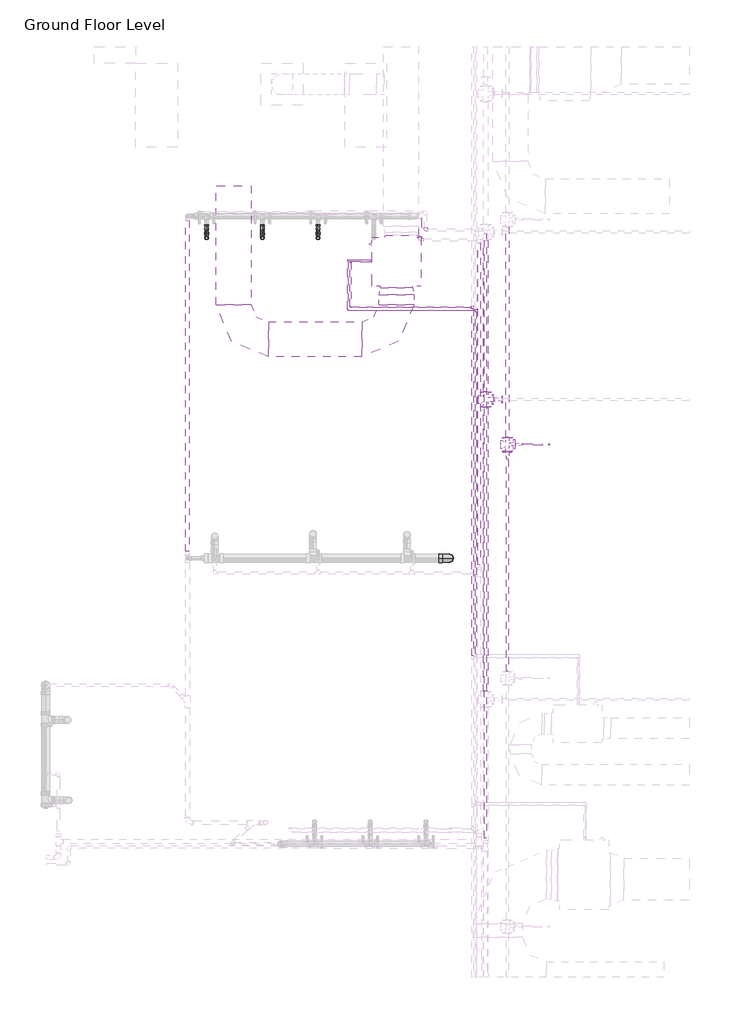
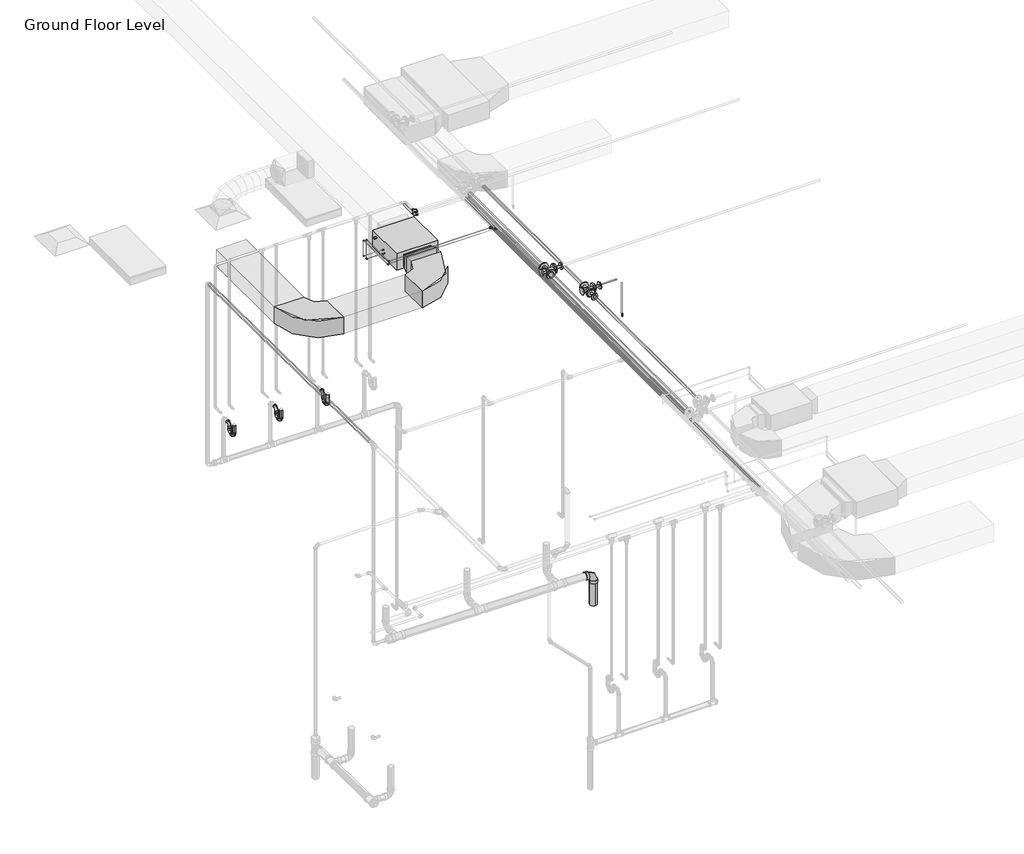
# One storey, part 21 of 74: 30 pipe segments, 27 pipe fittings, 3 duct fittings, 3 duct segments, 1 fire suppression terminal, 1 proxy.
"""IFC4 building model written with IfcOpenShell, lengths in millimetres."""

from ifc_helpers import new_model, si_unit, point, frame, frame_2d, origin, place, context, project, spatial, polyline, circle_curve, trimmed, segment, composite_curve, outline, extrude, transform, mapped, element, save
from components import fcu_daikin_iu_bad131e0, m_rectangular_elbow_radius_1_w_abe20169, m_rectangular_transition_angle_45_degree_f7c2916c, m_sprinkler_pendent_15_mm_pendent_06fcbd8e, m_bend_pvc_sch_40_dwv_standard_aa7efa4c, m_bend_pvc_sch_40_dwv_standard_1e7bdcc1, m_bend_pvc_sch_40_dwv_standard_776e50c4, m_elbow_generic_standard_a088f956, m_elbow_generic_standard_2a704253, m_reducer_flanged_cs_class_150_standard_b6b67c23, m_reducer_flanged_cs_class_150_standard_cc2a7c1d, m_reducer_flanged_cs_class_150_standard_a7631c35, m_tee_generic_standard_5b2ed4d4, m_tee_generic_standard_5078887e, m_tee_round_base_flanged_cs_class_150_standard_dd767e04, m_tee_round_base_flanged_cs_class_150_standard_9c9133d0, m_transition_generic_standard_bdcfe2c1, m_transition_generic_standard_44e35838, standard_517a5a8d

model = new_model("IFC4")

# Units and contexts
model_context = context("Model", 3, world=origin())
ifc_project = project(units=[si_unit("LENGTHUNIT", "METRE", prefix="MILLI")], contexts=[model_context])

# Site, building, storey
site = spatial("IfcSite", under=ifc_project)
building = spatial("IfcBuilding", under=site)
storey = spatial("IfcBuildingStorey", under=building, Name="Ground Floor Level", Elevation=900.0)

# Proxy
placement = place(None, origin())
fcu_daikin_iu_shape = fcu_daikin_iu_bad131e0(model_context)
element("IfcBuildingElementProxy", 1, Name="FCU-DAIKIN IU : 4.5kW, 230V/50Hz/1Ph", ObjectType="FCU-DAIKIN IU : 4.5kW, 230V/50Hz/1Ph", at=placement, inside=storey, context=model_context, shape_type="MappedRepresentation", body=[
    mapped(fcu_daikin_iu_shape, transform((4405.6581832, -24507.2627051, 3934.1054453), x_axis=(-1.0, 0.0, 0.0), y_axis=(0.0, -1.0, 0.0), z_axis=(0.0, 0.0, 1.0))),
])

# Duct fittings
m_rectangular_elbow_radius_1_w_shape = m_rectangular_elbow_radius_1_w_abe20169(model_context)
element("IfcDuctFitting", 2, ObjectType="M_Rectangular Elbow - Radius : 1 W", at=placement, inside=storey, context=model_context, shape_type="MappedRepresentation", body=[
    mapped(m_rectangular_elbow_radius_1_w_shape, transform((4405.6581832, -25622.6440715, 4075.3054453), x_axis=(1.0, 0.0, 0.0), y_axis=(0.0, 1.0, 0.0), z_axis=(0.0, 0.0, 1.0))),
])
element("IfcDuctFitting", 3, ObjectType="M_Rectangular Elbow - Radius : 1 W", at=placement, inside=storey, context=model_context, shape_type="MappedRepresentation", body=[
    mapped(m_rectangular_elbow_radius_1_w_shape, transform((2065.6581888, -25622.6440715, 4075.2875), x_axis=(0.0, -1.0, 0.0), y_axis=(1.0, 0.0, 0.0), z_axis=(0.0, 0.0, 1.0))),
])
m_rectangular_transition_angle_45_degree_shape = m_rectangular_transition_angle_45_degree_f7c2916c(model_context)
element("IfcDuctFitting", 4, ObjectType="M_Rectangular Transition - Angle : 45 Degree", at=placement, inside=storey, context=model_context, shape_type="MappedRepresentation", body=[
    mapped(m_rectangular_transition_angle_45_degree_shape, transform((4405.6581832, -24882.6627051, 4075.3054453), x_axis=(0.0, -1.0, 0.0), y_axis=(1.0, 0.0, 0.0), z_axis=(0.0, 0.0, 1.0))),
])

# Duct segments
element("IfcDuctSegment", 5, ObjectType="Radius Elbows / Taps", at=placement, inside=storey, context=model_context, shape_type="SweptSolid", body=[
    extrude(outline(polyline([(4155.6581832, -24986.1117562), (4655.6581832, -24986.1117562), (4655.6581832, -25122.6440715), (4155.6581832, -25122.6440715), (4155.6581832, -24986.1117562)])), frame((0.0, 0.0, 3925.3054453), z_axis=(0.0, 0.0, 1.0), x_axis=(1.0, 0.0, 0.0)), (0.0, 0.0, 1.0), 300.0),
])
element("IfcDuctSegment", 6, ObjectType="Radius Elbows / Taps", at=placement, inside=storey, context=model_context, shape_type="SweptSolid", body=[
    extrude(outline(polyline([(0.0, -500.0), (0.0, 0.0), (1339.9999945, 0.0), (1339.9999945, -500.0), (0.0, -500.0)])), frame((3905.660192, -25872.6440715, 3925.3054453), z_axis=(-1.3392036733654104e-05, 0.0, 0.9999999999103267), x_axis=(-0.9999999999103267, 0.0, -1.3392036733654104e-05)), (0.0, 0.0, 1.0), 300.0),
])
element("IfcDuctSegment", 7, ObjectType="Radius Elbows / Taps", at=placement, inside=storey, context=model_context, shape_type="SweptSolid", body=[
    extrude(outline(polyline([(2315.6581888, -25122.6440715), (1815.6581888, -25122.6440715), (1815.6581888, -23422.6440715), (2315.6581888, -23422.6440715), (2315.6581888, -25122.6440715)])), frame((0.0, 0.0, 3925.2875), z_axis=(0.0, 0.0, 1.0), x_axis=(1.0, 0.0, 0.0)), (0.0, 0.0, 1.0), 300.0),
])

# Fire suppression terminal
m_sprinkler_pendent_15_mm_pendent_shape = m_sprinkler_pendent_15_mm_pendent_06fcbd8e(model_context)
element("IfcFireSuppressionTerminal", 8, ObjectType="M_Sprinkler - Pendent : 15 mm Pendent", at=placement, inside=storey, context=model_context, shape_type="MappedRepresentation", body=[
    mapped(m_sprinkler_pendent_15_mm_pendent_shape, transform((6592.5481019, -27129.3982359, 3650.0), x_axis=(1.0, 0.0, 0.0), y_axis=(0.0, 1.0, 0.0), z_axis=(0.0, 0.0, 1.0))),
])

# Pipe fittings
m_bend_pvc_sch_40_dwv_standard_shape = m_bend_pvc_sch_40_dwv_standard_aa7efa4c(model_context)
element("IfcPipeFitting", 9, ObjectType="M_Bend - PVC - Sch 40 - DWV : Standard", at=placement, inside=storey, context=model_context, shape_type="MappedRepresentation", body=[
    mapped(m_bend_pvc_sch_40_dwv_standard_shape, transform((5158.4803359, -28761.5689421, 448.4416158), x_axis=(0.9999500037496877, 0.0, -0.00999950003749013), y_axis=(-0.00999950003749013, 0.0, -0.9999500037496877), z_axis=(0.0, 1.0, 0.0))),
])
m_bend_pvc_sch_40_dwv_standard_2_shape = m_bend_pvc_sch_40_dwv_standard_1e7bdcc1(model_context)
element("IfcPipeFitting", 10, ObjectType="M_Bend - PVC - Sch 40 - DWV : Standard", at=placement, inside=storey, context=model_context, shape_type="MappedRepresentation", body=[
    mapped(m_bend_pvc_sch_40_dwv_standard_2_shape, transform((1678.7498, -24168.3528578, 1360.0000049), x_axis=(0.0, 0.0, -1.0), y_axis=(0.0, 1.0, 0.0), z_axis=(1.0, 0.0, 0.0))),
])
element("IfcPipeFitting", 11, ObjectType="M_Bend - PVC - Sch 40 - DWV : Standard", at=placement, inside=storey, context=model_context, shape_type="MappedRepresentation", body=[
    mapped(m_bend_pvc_sch_40_dwv_standard_2_shape, transform((2478.7498, -24168.3528578, 1360.00001), x_axis=(0.0, -0.9999500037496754, 0.009999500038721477), y_axis=(0.0, 0.009999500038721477, 0.9999500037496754), z_axis=(-1.0, 0.0, 0.0))),
])
element("IfcPipeFitting", 12, ObjectType="M_Bend - PVC - Sch 40 - DWV : Standard", at=placement, inside=storey, context=model_context, shape_type="MappedRepresentation", body=[
    mapped(m_bend_pvc_sch_40_dwv_standard_2_shape, transform((3278.7498, -24168.3528578, 1360.0000049), x_axis=(0.0, -0.9999500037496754, 0.009999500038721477), y_axis=(0.0, 0.009999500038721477, 0.9999500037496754), z_axis=(-1.0, 0.0, 0.0))),
])
m_bend_pvc_sch_40_dwv_standard_3_shape = m_bend_pvc_sch_40_dwv_standard_776e50c4(model_context)
element("IfcPipeFitting", 13, ObjectType="M_Bend - PVC - Sch 40 - DWV : Standard", at=placement, inside=storey, context=model_context, shape_type="MappedRepresentation", body=[
    mapped(m_bend_pvc_sch_40_dwv_standard_3_shape, transform((1678.7498, -24038.3523645, 1358.7), x_axis=(0.0, 0.9999500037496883, -0.009999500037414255), y_axis=(0.0, 0.009999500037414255, 0.9999500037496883), z_axis=(1.0, 0.0, 0.0))),
])
element("IfcPipeFitting", 14, ObjectType="M_Bend - PVC - Sch 40 - DWV : Standard", at=placement, inside=storey, context=model_context, shape_type="MappedRepresentation", body=[
    mapped(m_bend_pvc_sch_40_dwv_standard_3_shape, transform((1678.7498, -24038.3523645, 1510.0493267), x_axis=(0.0, 0.0, 1.0), y_axis=(0.0, 1.0, 0.0), z_axis=(-1.0, 0.0, 0.0))),
])
element("IfcPipeFitting", 15, ObjectType="M_Bend - PVC - Sch 40 - DWV : Standard", at=placement, inside=storey, context=model_context, shape_type="MappedRepresentation", body=[
    mapped(m_bend_pvc_sch_40_dwv_standard_3_shape, transform((2478.7498, -24038.3518579, 1358.7), x_axis=(0.0, 0.9999500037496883, -0.009999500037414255), y_axis=(0.0, 0.009999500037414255, 0.9999500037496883), z_axis=(1.0, 0.0, 0.0))),
])
element("IfcPipeFitting", 16, ObjectType="M_Bend - PVC - Sch 40 - DWV : Standard", at=placement, inside=storey, context=model_context, shape_type="MappedRepresentation", body=[
    mapped(m_bend_pvc_sch_40_dwv_standard_3_shape, transform((2478.7498, -24038.3518579, 1510.09999), x_axis=(0.0, 0.0, 1.0), y_axis=(0.0, 1.0, 0.0), z_axis=(-1.0, 0.0, 0.0))),
])
element("IfcPipeFitting", 17, ObjectType="M_Bend - PVC - Sch 40 - DWV : Standard", at=placement, inside=storey, context=model_context, shape_type="MappedRepresentation", body=[
    mapped(m_bend_pvc_sch_40_dwv_standard_3_shape, transform((3278.7498, -24038.3523645, 1358.7), x_axis=(0.0, 0.9999500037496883, -0.009999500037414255), y_axis=(0.0, 0.009999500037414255, 0.9999500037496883), z_axis=(1.0, 0.0, 0.0))),
])
element("IfcPipeFitting", 18, ObjectType="M_Bend - PVC - Sch 40 - DWV : Standard", at=placement, inside=storey, context=model_context, shape_type="MappedRepresentation", body=[
    mapped(m_bend_pvc_sch_40_dwv_standard_3_shape, transform((3278.7498, -24038.3523645, 1510.0493267), x_axis=(0.0, 0.0, 1.0), y_axis=(0.0, 1.0, 0.0), z_axis=(-1.0, 0.0, 0.0))),
])
m_elbow_generic_standard_shape = m_elbow_generic_standard_a088f956(model_context)
element("IfcPipeFitting", 19, ObjectType="M_Elbow - Generic : Standard", at=placement, inside=storey, context=model_context, shape_type="MappedRepresentation", body=[
    mapped(m_elbow_generic_standard_shape, transform((3741.7995393, -24507.2440715, 4034.0875), x_axis=(-1.0, 0.0, 0.0), y_axis=(0.0, 0.0, 1.0), z_axis=(0.0, 1.0, 0.0))),
])
element("IfcPipeFitting", 20, ObjectType="M_Elbow - Generic : Standard", at=placement, inside=storey, context=model_context, shape_type="MappedRepresentation", body=[
    mapped(m_elbow_generic_standard_shape, transform((3741.7995393, -24507.2440715, 4390.0), x_axis=(0.0, 0.0, 1.0), y_axis=(0.0, -1.0, 0.0), z_axis=(1.0, 0.0, 0.0))),
])
element("IfcPipeFitting", 21, ObjectType="M_Elbow - Generic : Standard", at=placement, inside=storey, context=model_context, shape_type="MappedRepresentation", body=[
    mapped(m_elbow_generic_standard_shape, transform((3741.7995393, -25162.0896488, 4390.0), x_axis=(0.0, -1.0, 0.0), y_axis=(1.0, 0.0, 0.0), z_axis=(0.0, 0.0, 1.0))),
])
m_elbow_generic_standard_2_shape = m_elbow_generic_standard_2a704253(model_context)
element("IfcPipeFitting", 22, ObjectType="M_Elbow - Generic : Standard", at=placement, inside=storey, context=model_context, shape_type="MappedRepresentation", body=[
    mapped(m_elbow_generic_standard_2_shape, transform((3705.4496688, -24482.2440715, 4084.8875), x_axis=(-1.0, 0.0, 0.0), y_axis=(0.0, 0.0, 1.0), z_axis=(0.0, 1.0, 0.0))),
])
element("IfcPipeFitting", 23, ObjectType="M_Elbow - Generic : Standard", at=placement, inside=storey, context=model_context, shape_type="MappedRepresentation", body=[
    mapped(m_elbow_generic_standard_2_shape, transform((3705.4496688, -24482.2440715, 4377.5), x_axis=(0.0, 0.0, 1.0), y_axis=(0.0, -1.0, 0.0), z_axis=(1.0, 0.0, 0.0))),
])
element("IfcPipeFitting", 24, ObjectType="M_Elbow - Generic : Standard", at=placement, inside=storey, context=model_context, shape_type="MappedRepresentation", body=[
    mapped(m_elbow_generic_standard_2_shape, transform((3705.4496688, -25206.4899508, 4377.5), x_axis=(0.0, -1.0, 0.0), y_axis=(1.0, 0.0, 0.0), z_axis=(0.0, 0.0, 1.0))),
])
m_reducer_flanged_cs_class_150_standard_shape = m_reducer_flanged_cs_class_150_standard_b6b67c23(model_context)
element("IfcPipeFitting", 25, ObjectType="M_Reducer - Flanged - CS - Class 150 : Standard", at=placement, inside=storey, context=model_context, shape_type="MappedRepresentation", body=[
    mapped(m_reducer_flanged_cs_class_150_standard_shape, transform((5997.057812, -27235.4968297, 4291.0943441), x_axis=(0.0, -1.0, 0.0), y_axis=(1.0, 0.0, 0.0), z_axis=(0.0, 0.0, 1.0))),
])
m_reducer_flanged_cs_class_150_standard_2_shape = m_reducer_flanged_cs_class_150_standard_cc2a7c1d(model_context)
element("IfcPipeFitting", 26, ObjectType="M_Reducer - Flanged - CS - Class 150 : Standard", at=placement, inside=storey, context=model_context, shape_type="MappedRepresentation", body=[
    mapped(m_reducer_flanged_cs_class_150_standard_2_shape, transform((6103.1564057, -27129.3982359, 4291.2754753), x_axis=(1.0, 0.0, 0.0), y_axis=(0.0, 0.0, -1.0), z_axis=(0.0, 1.0, 0.0))),
])
m_reducer_flanged_cs_class_150_standard_3_shape = m_reducer_flanged_cs_class_150_standard_a7631c35(model_context)
element("IfcPipeFitting", 27, ObjectType="M_Reducer - Flanged - CS - Class 150 : Standard", at=placement, inside=storey, context=model_context, shape_type="MappedRepresentation", body=[
    mapped(m_reducer_flanged_cs_class_150_standard_3_shape, transform((5798.6174894, -26484.6295433, 4347.5), x_axis=(1.0, 0.0, 0.0), y_axis=(0.0, 0.0, 1.0), z_axis=(0.0, -1.0, 0.0))),
])
m_tee_generic_standard_shape = m_tee_generic_standard_5b2ed4d4(model_context)
element("IfcPipeFitting", 28, ObjectType="M_Tee - Generic : Standard", at=placement, inside=storey, context=model_context, shape_type="MappedRepresentation", body=[
    mapped(m_tee_generic_standard_shape, transform((5543.9904113, -25206.4899508, 4377.5), x_axis=(0.0, -1.0, 0.0), y_axis=(1.0, 0.0, 0.0), z_axis=(0.0, 0.0, 1.0))),
])
m_tee_generic_standard_2_shape = m_tee_generic_standard_5078887e(model_context)
element("IfcPipeFitting", 29, ObjectType="M_Tee - Generic : Standard", at=placement, inside=storey, context=model_context, shape_type="MappedRepresentation", body=[
    mapped(m_tee_generic_standard_2_shape, transform((5497.8951827, -25162.0896488, 4390.0), x_axis=(0.0, -1.0, 0.0), y_axis=(1.0, 0.0, 0.0), z_axis=(0.0, 0.0, 1.0))),
])
m_tee_round_base_flanged_cs_class_150_standard_shape = m_tee_round_base_flanged_cs_class_150_standard_dd767e04(model_context)
element("IfcPipeFitting", 30, ObjectType="M_Tee Round Base - Flanged - CS - Class 150 : Standard", at=placement, inside=storey, context=model_context, shape_type="MappedRepresentation", body=[
    mapped(m_tee_round_base_flanged_cs_class_150_standard_shape, transform((5684.6174894, -26484.6295433, 4347.5), x_axis=(0.0, -1.0, 0.0), y_axis=(-1.0, 0.0, 0.0), z_axis=(0.0, 0.0, -1.0))),
])
m_tee_round_base_flanged_cs_class_150_standard_2_shape = m_tee_round_base_flanged_cs_class_150_standard_9c9133d0(model_context)
element("IfcPipeFitting", 31, ObjectType="M_Tee Round Base - Flanged - CS - Class 150 : Standard", at=placement, inside=storey, context=model_context, shape_type="MappedRepresentation", body=[
    mapped(m_tee_round_base_flanged_cs_class_150_standard_2_shape, transform((5997.057812, -27129.3982359, 4291.0943441), x_axis=(0.0, 1.0, 0.0), y_axis=(-1.0, 0.0, 0.0), z_axis=(0.0, 0.0, 1.0))),
])
m_transition_generic_standard_shape = m_transition_generic_standard_bdcfe2c1(model_context)
element("IfcPipeFitting", 32, ObjectType="M_Transition - Generic : Standard", at=placement, inside=storey, context=model_context, shape_type="MappedRepresentation", body=[
    mapped(m_transition_generic_standard_shape, transform((5523.3529113, -25206.4899508, 4377.5), x_axis=(-1.0, 0.0, 0.0), y_axis=(0.0, -1.0, 0.0), z_axis=(0.0, 0.0, 1.0))),
])
m_transition_generic_standard_2_shape = m_transition_generic_standard_44e35838(model_context)
element("IfcPipeFitting", 33, ObjectType="M_Transition - Generic : Standard", at=placement, inside=storey, context=model_context, shape_type="MappedRepresentation", body=[
    mapped(m_transition_generic_standard_2_shape, transform((5474.0826827, -25162.0896488, 4390.0), x_axis=(-1.0, 0.0, 0.0), y_axis=(0.0, -1.0, 0.0), z_axis=(0.0, 0.0, 1.0))),
])
standard_shape = standard_517a5a8d(model_context)
element("IfcPipeFitting", 34, ObjectType="M_Elbow - CPVC - Sch 40 : Standard", at=placement, inside=storey, context=model_context, shape_type="MappedRepresentation", body=[
    mapped(standard_shape, transform((4743.0647206, -24195.7825432, 4300.0), x_axis=(0.0, -1.0, 0.0), y_axis=(1.0, 0.0, 0.0), z_axis=(0.0, 0.0, 1.0))),
])
element("IfcPipeFitting", 35, ObjectType="M_Elbow - CPVC - Sch 40 : Standard", at=placement, inside=storey, context=model_context, shape_type="MappedRepresentation", body=[
    mapped(standard_shape, transform((4820.5575802, -24054.921633, 4250.0), x_axis=(0.0, -1.0, 0.0), y_axis=(1.0, 0.0, 0.0), z_axis=(0.0, 0.0, 1.0))),
])

# Pipe segments
element("IfcPipeSegment", 36, ObjectType="CPVC", at=placement, inside=storey, context=model_context, shape_type="SweptSolid", body=[
    extrude(outline(composite_curve([segment(trimmed(circle_curve(frame_2d((4300.0, 4743.0647206)), 16.7005), [point((4300.0, 4726.3642206))], [point((4283.2995, 4743.0647206))], False, "CARTESIAN"), True, "CONTINUOUS"), segment(trimmed(circle_curve(frame_2d((4300.0, 4743.0647206)), 16.7005), [point((4283.2995, 4743.0647206))], [point((4300.0, 4759.7652206))], False, "CARTESIAN"), True, "CONTINUOUS"), segment(trimmed(circle_curve(frame_2d((4300.0, 4743.0647206)), 16.7005), [point((4300.0, 4759.7652206))], [point((4316.7005, 4743.0647206))], False, "CARTESIAN"), True, "CONTINUOUS"), segment(trimmed(circle_curve(frame_2d((4300.0, 4743.0647206)), 16.7005), [point((4316.7005, 4743.0647206))], [point((4300.0, 4726.3642206))], False, "CARTESIAN"), True, "CONTINUOUS")], self_intersect=False)), frame((0.0, -24152.5199932, 0.0), z_axis=(0.0, 1.0, 0.0), x_axis=(0.0, 0.0, 1.0)), (0.0, 0.0, 1.0), 264.4727966),
])
element("IfcPipeSegment", 37, ObjectType="CPVC", at=placement, inside=storey, context=model_context, shape_type="SweptSolid", body=[
    extrude(outline(composite_curve([segment(trimmed(circle_curve(frame_2d((4300.0, 5589.646628)), 16.7005), [point((4300.0, 5572.946128))], [point((4283.2995, 5589.646628))], False, "CARTESIAN"), True, "CONTINUOUS"), segment(trimmed(circle_curve(frame_2d((4300.0, 5589.646628)), 16.7005), [point((4283.2995, 5589.646628))], [point((4300.0, 5606.347128))], False, "CARTESIAN"), True, "CONTINUOUS"), segment(trimmed(circle_curve(frame_2d((4300.0, 5589.646628)), 16.7005), [point((4300.0, 5606.347128))], [point((4316.7005, 5589.646628))], False, "CARTESIAN"), True, "CONTINUOUS"), segment(trimmed(circle_curve(frame_2d((4300.0, 5589.646628)), 16.7005), [point((4316.7005, 5589.646628))], [point((4300.0, 5572.946128))], False, "CARTESIAN"), True, "CONTINUOUS")], self_intersect=False)), frame((0.0, -28854.6907716, 0.0), z_axis=(0.0, 1.0, 0.0), x_axis=(0.0, 0.0, 1.0)), (0.0, 0.0, 1.0), 4615.6456784),
])
element("IfcPipeSegment", 38, ObjectType="CPVC", at=placement, inside=storey, context=model_context, shape_type="SweptSolid", body=[
    extrude(outline(composite_curve([segment(trimmed(circle_curve(frame_2d((4250.0, 5680.5575802)), 16.7005), [point((4250.0, 5697.2580802))], [point((4266.7005, 5680.5575802))], False, "CARTESIAN"), True, "CONTINUOUS"), segment(trimmed(circle_curve(frame_2d((4250.0, 5680.5575802)), 16.7005), [point((4266.7005, 5680.5575802))], [point((4250.0, 5663.8570802))], False, "CARTESIAN"), True, "CONTINUOUS"), segment(trimmed(circle_curve(frame_2d((4250.0, 5680.5575802)), 16.7005), [point((4250.0, 5663.8570802))], [point((4233.2995, 5680.5575802))], False, "CARTESIAN"), True, "CONTINUOUS"), segment(trimmed(circle_curve(frame_2d((4250.0, 5680.5575802)), 16.7005), [point((4233.2995, 5680.5575802))], [point((4250.0, 5697.2580802))], False, "CARTESIAN"), True, "CONTINUOUS")], self_intersect=False)), frame((0.0, -32774.921633, 0.0), z_axis=(0.0, 1.0, 0.0), x_axis=(0.0, 0.0, 1.0)), (0.0, 0.0, 1.0), 8676.73745),
])
element("IfcPipeSegment", 39, ObjectType="Copper", at=placement, inside=storey, context=model_context, shape_type="SweptSolid", body=[
    extrude(outline(composite_curve([segment(trimmed(circle_curve(frame_2d((-25206.4899508, 4377.5)), 3.35), [point((-25209.8399508, 4377.5))], [point((-25206.4899508, 4380.85))], False, "CARTESIAN"), True, "CONTINUOUS"), segment(trimmed(circle_curve(frame_2d((-25206.4899508, 4377.5)), 3.35), [point((-25206.4899508, 4380.85))], [point((-25203.1399508, 4377.5))], False, "CARTESIAN"), True, "CONTINUOUS"), segment(trimmed(circle_curve(frame_2d((-25206.4899508, 4377.5)), 3.35), [point((-25203.1399508, 4377.5))], [point((-25206.4899508, 4374.15))], False, "CARTESIAN"), True, "CONTINUOUS"), segment(trimmed(circle_curve(frame_2d((-25206.4899508, 4377.5)), 3.35), [point((-25206.4899508, 4374.15))], [point((-25209.8399508, 4377.5))], False, "CARTESIAN"), True, "CONTINUOUS")], self_intersect=False)), frame((3716.5871688, 0.0, 0.0), z_axis=(1.0, 0.0, 0.0), x_axis=(0.0, 1.0, 0.0)), (0.0, 0.0, 1.0), 1802.7969926),
])
element("IfcPipeSegment", 40, ObjectType="Copper", at=placement, inside=storey, context=model_context, shape_type="SweptSolid", body=[
    extrude(outline(composite_curve([segment(trimmed(circle_curve(frame_2d((-25162.0896488, 4390.0)), 6.5), [point((-25168.5896488, 4390.0))], [point((-25162.0896488, 4396.5))], False, "CARTESIAN"), True, "CONTINUOUS"), segment(trimmed(circle_curve(frame_2d((-25162.0896488, 4390.0)), 6.5), [point((-25162.0896488, 4396.5))], [point((-25155.5896488, 4390.0))], False, "CARTESIAN"), True, "CONTINUOUS"), segment(trimmed(circle_curve(frame_2d((-25162.0896488, 4390.0)), 6.5), [point((-25155.5896488, 4390.0))], [point((-25162.0896488, 4383.5))], False, "CARTESIAN"), True, "CONTINUOUS"), segment(trimmed(circle_curve(frame_2d((-25162.0896488, 4390.0)), 6.5), [point((-25162.0896488, 4383.5))], [point((-25168.5896488, 4390.0))], False, "CARTESIAN"), True, "CONTINUOUS")], self_intersect=False)), frame((3756.0870393, 0.0, 0.0), z_axis=(1.0, 0.0, 0.0), x_axis=(0.0, 1.0, 0.0)), (0.0, 0.0, 1.0), 1712.4393933),
])
element("IfcPipeSegment", 41, ObjectType="Copper", at=placement, inside=storey, context=model_context, shape_type="SweptSolid", body=[
    extrude(outline(composite_curve([segment(trimmed(circle_curve(frame_2d((4377.5, 3705.4496688)), 3.35), [point((4377.5, 3702.0996688))], [point((4374.15, 3705.4496688))], False, "CARTESIAN"), True, "CONTINUOUS"), segment(trimmed(circle_curve(frame_2d((4377.5, 3705.4496688)), 3.35), [point((4374.15, 3705.4496688))], [point((4377.5, 3708.7996688))], False, "CARTESIAN"), True, "CONTINUOUS"), segment(trimmed(circle_curve(frame_2d((4377.5, 3705.4496688)), 3.35), [point((4377.5, 3708.7996688))], [point((4380.85, 3705.4496688))], False, "CARTESIAN"), True, "CONTINUOUS"), segment(trimmed(circle_curve(frame_2d((4377.5, 3705.4496688)), 3.35), [point((4380.85, 3705.4496688))], [point((4377.5, 3702.0996688))], False, "CARTESIAN"), True, "CONTINUOUS")], self_intersect=False)), frame((0.0, -25195.3524508, 0.0), z_axis=(0.0, 1.0, 0.0), x_axis=(0.0, 0.0, 1.0)), (0.0, 0.0, 1.0), 701.9708793),
])
element("IfcPipeSegment", 42, ObjectType="Copper", at=placement, inside=storey, context=model_context, shape_type="SweptSolid", body=[
    extrude(outline(composite_curve([segment(trimmed(circle_curve(frame_2d((4390.0, 3741.7995393)), 6.5), [point((4390.0, 3735.2995393))], [point((4383.5, 3741.7995393))], False, "CARTESIAN"), True, "CONTINUOUS"), segment(trimmed(circle_curve(frame_2d((4390.0, 3741.7995393)), 6.5), [point((4383.5, 3741.7995393))], [point((4390.0, 3748.2995393))], False, "CARTESIAN"), True, "CONTINUOUS"), segment(trimmed(circle_curve(frame_2d((4390.0, 3741.7995393)), 6.5), [point((4390.0, 3748.2995393))], [point((4396.5, 3741.7995393))], False, "CARTESIAN"), True, "CONTINUOUS"), segment(trimmed(circle_curve(frame_2d((4390.0, 3741.7995393)), 6.5), [point((4396.5, 3741.7995393))], [point((4390.0, 3735.2995393))], False, "CARTESIAN"), True, "CONTINUOUS")], self_intersect=False)), frame((0.0, -25147.8021488, 0.0), z_axis=(0.0, 1.0, 0.0), x_axis=(0.0, 0.0, 1.0)), (0.0, 0.0, 1.0), 626.2705772),
])
element("IfcPipeSegment", 43, ObjectType="Copper", at=placement, inside=storey, context=model_context, shape_type="SweptSolid", body=[
    extrude(outline(composite_curve([segment(trimmed(circle_curve(frame_2d((0.0, -6.5)), 6.5), [point((-6.5, -6.5))], [point((1e-07, 0.0))], False, "CARTESIAN"), True, "CONTINUOUS"), segment(trimmed(circle_curve(frame_2d((0.0, -6.5)), 6.5), [point((1e-07, 0.0))], [point((6.5, -6.5))], False, "CARTESIAN"), True, "CONTINUOUS"), segment(trimmed(circle_curve(frame_2d((0.0, -6.5)), 6.5), [point((6.5, -6.5))], [point((0.0, -13.0))], False, "CARTESIAN"), True, "CONTINUOUS"), segment(trimmed(circle_curve(frame_2d((0.0, -6.5)), 6.5), [point((0.0, -13.0))], [point((-6.5, -6.5))], False, "CARTESIAN"), True, "CONTINUOUS")], self_intersect=False)), frame((3756.0874855, -24507.2440715, 4027.5875), z_axis=(0.9999999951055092, -7.12643563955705e-05, 6.86321587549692e-05), x_axis=(-7.126435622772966e-05, -0.9999999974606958, -4.891026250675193e-09)), (0.0, 0.0, 1.0), 261.4711452),
])
element("IfcPipeSegment", 44, ObjectType="Copper", at=placement, inside=storey, context=model_context, shape_type="SweptSolid", body=[
    extrude(outline(composite_curve([segment(trimmed(circle_curve(frame_2d((0.0, -3.35)), 3.35), [point((-3.35, -3.35))], [point((0.0, 0.0))], False, "CARTESIAN"), True, "CONTINUOUS"), segment(trimmed(circle_curve(frame_2d((0.0, -3.35)), 3.35), [point((0.0, 0.0))], [point((3.35, -3.35))], False, "CARTESIAN"), True, "CONTINUOUS"), segment(trimmed(circle_curve(frame_2d((0.0, -3.35)), 3.35), [point((3.35, -3.35))], [point((0.0, -6.7))], False, "CARTESIAN"), True, "CONTINUOUS"), segment(trimmed(circle_curve(frame_2d((0.0, -3.35)), 3.35), [point((0.0, -6.7))], [point((-3.35, -3.35))], False, "CARTESIAN"), True, "CONTINUOUS")], self_intersect=False)), frame((3716.5873685, -24482.2440715, 4081.5375), z_axis=(0.9999999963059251, -6.191151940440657e-05, 5.962477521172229e-05), x_axis=(-6.191151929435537e-05, -0.999999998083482, -3.691459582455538e-09)), (0.0, 0.0, 1.0), 300.9710156),
])
element("IfcPipeSegment", 45, ObjectType="Copper", at=placement, inside=storey, context=model_context, shape_type="SweptSolid", body=[
    extrude(outline(composite_curve([segment(trimmed(circle_curve(frame_2d((3705.4496688, -24482.2440715)), 3.35), [point((3702.0996688, -24482.2440715))], [point((3705.4496688, -24478.8940715))], False, "CARTESIAN"), True, "CONTINUOUS"), segment(trimmed(circle_curve(frame_2d((3705.4496688, -24482.2440715)), 3.35), [point((3705.4496688, -24478.8940715))], [point((3708.7996688, -24482.2440715))], False, "CARTESIAN"), True, "CONTINUOUS"), segment(trimmed(circle_curve(frame_2d((3705.4496688, -24482.2440715)), 3.35), [point((3708.7996688, -24482.2440715))], [point((3705.4496688, -24485.5940715))], False, "CARTESIAN"), True, "CONTINUOUS"), segment(trimmed(circle_curve(frame_2d((3705.4496688, -24482.2440715)), 3.35), [point((3705.4496688, -24485.5940715))], [point((3702.0996688, -24482.2440715))], False, "CARTESIAN"), True, "CONTINUOUS")], self_intersect=False)), frame((0.0, 0.0, 4096.025), z_axis=(0.0, 0.0, 1.0), x_axis=(1.0, 0.0, 0.0)), (0.0, 0.0, 1.0), 270.3375),
])
element("IfcPipeSegment", 46, ObjectType="Copper", at=placement, inside=storey, context=model_context, shape_type="SweptSolid", body=[
    extrude(outline(composite_curve([segment(trimmed(circle_curve(frame_2d((3741.7995393, -24507.2440715)), 6.5), [point((3735.2995393, -24507.2440715))], [point((3741.7995393, -24500.7440715))], False, "CARTESIAN"), True, "CONTINUOUS"), segment(trimmed(circle_curve(frame_2d((3741.7995393, -24507.2440715)), 6.5), [point((3741.7995393, -24500.7440715))], [point((3748.2995393, -24507.2440715))], False, "CARTESIAN"), True, "CONTINUOUS"), segment(trimmed(circle_curve(frame_2d((3741.7995393, -24507.2440715)), 6.5), [point((3748.2995393, -24507.2440715))], [point((3741.7995393, -24513.7440715))], False, "CARTESIAN"), True, "CONTINUOUS"), segment(trimmed(circle_curve(frame_2d((3741.7995393, -24507.2440715)), 6.5), [point((3741.7995393, -24513.7440715))], [point((3735.2995393, -24507.2440715))], False, "CARTESIAN"), True, "CONTINUOUS")], self_intersect=False)), frame((0.0, 0.0, 4048.375), z_axis=(0.0, 0.0, 1.0), x_axis=(1.0, 0.0, 0.0)), (0.0, 0.0, 1.0), 327.3375),
])
element("IfcPipeSegment", 47, ObjectType="Copper", at=placement, inside=storey, context=model_context, shape_type="SweptSolid", body=[
    extrude(outline(composite_curve([segment(trimmed(circle_curve(frame_2d((4377.5, 5543.9904113)), 6.5), [point((4377.5, 5550.4904113))], [point((4384.0, 5543.9904113))], False, "CARTESIAN"), True, "CONTINUOUS"), segment(trimmed(circle_curve(frame_2d((4377.5, 5543.9904113)), 6.5), [point((4384.0, 5543.9904113))], [point((4377.5, 5537.4904113))], False, "CARTESIAN"), True, "CONTINUOUS"), segment(trimmed(circle_curve(frame_2d((4377.5, 5543.9904113)), 6.5), [point((4377.5, 5537.4904113))], [point((4371.0, 5543.9904113))], False, "CARTESIAN"), True, "CONTINUOUS"), segment(trimmed(circle_curve(frame_2d((4377.5, 5543.9904113)), 6.5), [point((4371.0, 5543.9904113))], [point((4377.5, 5550.4904113))], False, "CARTESIAN"), True, "CONTINUOUS")], self_intersect=False)), frame((0.0, -30124.2941538, 0.0), z_axis=(0.0, 1.0, 0.0), x_axis=(0.0, 0.0, 1.0)), (0.0, 0.0, 1.0), 4897.166703),
])
element("IfcPipeSegment", 48, ObjectType="Copper", at=placement, inside=storey, context=model_context, shape_type="SweptSolid", body=[
    extrude(outline(composite_curve([segment(trimmed(circle_curve(frame_2d((4390.0, 5497.8951827)), 9.75), [point((4390.0, 5507.6451827))], [point((4399.75, 5497.8951827))], False, "CARTESIAN"), True, "CONTINUOUS"), segment(trimmed(circle_curve(frame_2d((4390.0, 5497.8951827)), 9.75), [point((4399.75, 5497.8951827))], [point((4390.0, 5488.1451827))], False, "CARTESIAN"), True, "CONTINUOUS"), segment(trimmed(circle_curve(frame_2d((4390.0, 5497.8951827)), 9.75), [point((4390.0, 5488.1451827))], [point((4380.25, 5497.8951827))], False, "CARTESIAN"), True, "CONTINUOUS"), segment(trimmed(circle_curve(frame_2d((4390.0, 5497.8951827)), 9.75), [point((4380.25, 5497.8951827))], [point((4390.0, 5507.6451827))], False, "CARTESIAN"), True, "CONTINUOUS")], self_intersect=False)), frame((0.0, -30163.6388653, 0.0), z_axis=(0.0, 1.0, 0.0), x_axis=(0.0, 0.0, 1.0)), (0.0, 0.0, 1.0), 4977.7367166),
])
element("IfcPipeSegment", 49, ObjectType="PVC - DWV", at=placement, inside=storey, context=model_context, shape_type="SweptSolid", body=[
    extrude(outline(composite_curve([segment(trimmed(circle_curve(frame_2d((1678.7498, -24168.3528578)), 24.13), [point((1702.8798, -24168.3528578))], [point((1678.7498, -24192.4828578))], False, "CARTESIAN"), True, "CONTINUOUS"), segment(trimmed(circle_curve(frame_2d((1678.7498, -24168.3528578)), 24.13), [point((1678.7498, -24192.4828578))], [point((1654.6198, -24168.3528578))], False, "CARTESIAN"), True, "CONTINUOUS"), segment(trimmed(circle_curve(frame_2d((1678.7498, -24168.3528578)), 24.13), [point((1654.6198, -24168.3528578))], [point((1678.7498, -24144.2228578))], False, "CARTESIAN"), True, "CONTINUOUS"), segment(trimmed(circle_curve(frame_2d((1678.7498, -24168.3528578)), 24.13), [point((1678.7498, -24144.2228578))], [point((1702.8798, -24168.3528578))], False, "CARTESIAN"), True, "CONTINUOUS")], self_intersect=False)), frame((0.0, 0.0, 1421.8998049), z_axis=(0.0, 0.0, 1.0), x_axis=(1.0, 0.0, 0.0)), (0.0, 0.0, 1.0), 128.1001951),
])
element("IfcPipeSegment", 50, ObjectType="PVC - DWV", at=placement, inside=storey, context=model_context, shape_type="SweptSolid", body=[
    extrude(outline(composite_curve([segment(trimmed(circle_curve(frame_2d((0.0, -24.1299999)), 24.13), [point((24.13, -24.1299999))], [point((0.0, -48.2599999))], False, "CARTESIAN"), True, "CONTINUOUS"), segment(trimmed(circle_curve(frame_2d((0.0, -24.1299999)), 24.13), [point((0.0, -48.2599999))], [point((-24.13, -24.1299999))], False, "CARTESIAN"), True, "CONTINUOUS"), segment(trimmed(circle_curve(frame_2d((0.0, -24.1299999)), 24.13), [point((-24.13, -24.1299999))], [point((0.0, 0.0))], False, "CARTESIAN"), True, "CONTINUOUS"), segment(trimmed(circle_curve(frame_2d((0.0, -24.1299999)), 24.13), [point((0.0, 0.0))], [point((24.13, -24.1299999))], False, "CARTESIAN"), True, "CONTINUOUS")], self_intersect=False)), frame((1678.7498, -24100.0077818, 1383.4477606), z_axis=(0.0, -0.9999500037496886, 0.0099995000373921), x_axis=(1.0, 0.0, 0.0)), (0.0, 0.0, 1.0), 6.2073931),
])
element("IfcPipeSegment", 51, ObjectType="PVC - DWV", at=placement, inside=storey, context=model_context, shape_type="SweptSolid", body=[
    extrude(outline(composite_curve([segment(trimmed(circle_curve(frame_2d((1678.7498, -24038.3523645)), 24.13), [point((1654.6198, -24038.3523645))], [point((1678.7498, -24014.2223645))], False, "CARTESIAN"), True, "CONTINUOUS"), segment(trimmed(circle_curve(frame_2d((1678.7498, -24038.3523645)), 24.13), [point((1678.7498, -24014.2223645))], [point((1702.8798, -24038.3523645))], False, "CARTESIAN"), True, "CONTINUOUS"), segment(trimmed(circle_curve(frame_2d((1678.7498, -24038.3523645)), 24.13), [point((1702.8798, -24038.3523645))], [point((1678.7498, -24062.4823645))], False, "CARTESIAN"), True, "CONTINUOUS"), segment(trimmed(circle_curve(frame_2d((1678.7498, -24038.3523645)), 24.13), [point((1678.7498, -24062.4823645))], [point((1654.6198, -24038.3523645))], False, "CARTESIAN"), True, "CONTINUOUS")], self_intersect=False)), frame((0.0, 0.0, 1420.5998), z_axis=(0.0, 0.0, 1.0), x_axis=(1.0, 0.0, 0.0)), (0.0, 0.0, 1.0), 27.5497267),
])
element("IfcPipeSegment", 52, ObjectType="PVC - DWV", at=placement, inside=storey, context=model_context, shape_type="SweptSolid", body=[
    extrude(outline(composite_curve([segment(trimmed(circle_curve(frame_2d((2478.7498, -24168.3528578)), 24.13), [point((2454.6198, -24168.3528578))], [point((2478.7498, -24144.2228578))], False, "CARTESIAN"), True, "CONTINUOUS"), segment(trimmed(circle_curve(frame_2d((2478.7498, -24168.3528578)), 24.13), [point((2478.7498, -24144.2228578))], [point((2502.8798, -24168.3528578))], False, "CARTESIAN"), True, "CONTINUOUS"), segment(trimmed(circle_curve(frame_2d((2478.7498, -24168.3528578)), 24.13), [point((2502.8798, -24168.3528578))], [point((2478.7498, -24192.4828578))], False, "CARTESIAN"), True, "CONTINUOUS"), segment(trimmed(circle_curve(frame_2d((2478.7498, -24168.3528578)), 24.13), [point((2478.7498, -24192.4828578))], [point((2454.6198, -24168.3528578))], False, "CARTESIAN"), True, "CONTINUOUS")], self_intersect=False)), frame((0.0, 0.0, 1421.89981), z_axis=(0.0, 0.0, 1.0), x_axis=(1.0, 0.0, 0.0)), (0.0, 0.0, 1.0), 128.10019),
])
element("IfcPipeSegment", 53, ObjectType="PVC - DWV", at=placement, inside=storey, context=model_context, shape_type="SweptSolid", body=[
    extrude(outline(composite_curve([segment(trimmed(circle_curve(frame_2d((0.0, -24.1299999)), 24.13), [point((24.13, -24.1299999))], [point((0.0, -48.2599999))], False, "CARTESIAN"), True, "CONTINUOUS"), segment(trimmed(circle_curve(frame_2d((0.0, -24.1299999)), 24.13), [point((0.0, -48.2599999))], [point((-24.13, -24.1299999))], False, "CARTESIAN"), True, "CONTINUOUS"), segment(trimmed(circle_curve(frame_2d((0.0, -24.1299999)), 24.13), [point((-24.13, -24.1299999))], [point((0.0, 0.0))], False, "CARTESIAN"), True, "CONTINUOUS"), segment(trimmed(circle_curve(frame_2d((0.0, -24.1299999)), 24.13), [point((0.0, 0.0))], [point((24.13, -24.1299999))], False, "CARTESIAN"), True, "CONTINUOUS")], self_intersect=False)), frame((2478.7498, -24100.0072752, 1383.4477606), z_axis=(0.0, -0.9999500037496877, 0.009999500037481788), x_axis=(1.0, 0.0, 0.0)), (0.0, 0.0, 1.0), 6.2078998),
])
element("IfcPipeSegment", 54, ObjectType="PVC - DWV", at=placement, inside=storey, context=model_context, shape_type="SweptSolid", body=[
    extrude(outline(composite_curve([segment(trimmed(circle_curve(frame_2d((2478.7498, -24038.3518579)), 24.13), [point((2454.6198, -24038.3518579))], [point((2478.7498, -24014.2218579))], False, "CARTESIAN"), True, "CONTINUOUS"), segment(trimmed(circle_curve(frame_2d((2478.7498, -24038.3518579)), 24.13), [point((2478.7498, -24014.2218579))], [point((2502.8798, -24038.3518579))], False, "CARTESIAN"), True, "CONTINUOUS"), segment(trimmed(circle_curve(frame_2d((2478.7498, -24038.3518579)), 24.13), [point((2502.8798, -24038.3518579))], [point((2478.7498, -24062.4818579))], False, "CARTESIAN"), True, "CONTINUOUS"), segment(trimmed(circle_curve(frame_2d((2478.7498, -24038.3518579)), 24.13), [point((2478.7498, -24062.4818579))], [point((2454.6198, -24038.3518579))], False, "CARTESIAN"), True, "CONTINUOUS")], self_intersect=False)), frame((0.0, 0.0, 1420.5998), z_axis=(0.0, 0.0, 1.0), x_axis=(1.0, 0.0, 0.0)), (0.0, 0.0, 1.0), 27.60039),
])
element("IfcPipeSegment", 55, ObjectType="PVC - DWV", at=placement, inside=storey, context=model_context, shape_type="SweptSolid", body=[
    extrude(outline(composite_curve([segment(trimmed(circle_curve(frame_2d((3278.7498, -24168.3528578)), 24.13), [point((3254.6198, -24168.3528578))], [point((3278.7498, -24144.2228578))], False, "CARTESIAN"), True, "CONTINUOUS"), segment(trimmed(circle_curve(frame_2d((3278.7498, -24168.3528578)), 24.13), [point((3278.7498, -24144.2228578))], [point((3302.8798, -24168.3528578))], False, "CARTESIAN"), True, "CONTINUOUS"), segment(trimmed(circle_curve(frame_2d((3278.7498, -24168.3528578)), 24.13), [point((3302.8798, -24168.3528578))], [point((3278.7498, -24192.4828578))], False, "CARTESIAN"), True, "CONTINUOUS"), segment(trimmed(circle_curve(frame_2d((3278.7498, -24168.3528578)), 24.13), [point((3278.7498, -24192.4828578))], [point((3254.6198, -24168.3528578))], False, "CARTESIAN"), True, "CONTINUOUS")], self_intersect=False)), frame((0.0, 0.0, 1421.8998049), z_axis=(0.0, 0.0, 1.0), x_axis=(1.0, 0.0, 0.0)), (0.0, 0.0, 1.0), 128.1001951),
])
element("IfcPipeSegment", 56, ObjectType="PVC - DWV", at=placement, inside=storey, context=model_context, shape_type="SweptSolid", body=[
    extrude(outline(composite_curve([segment(trimmed(circle_curve(frame_2d((0.0, -24.1299999)), 24.13), [point((24.13, -24.1299999))], [point((0.0, -48.2599999))], False, "CARTESIAN"), True, "CONTINUOUS"), segment(trimmed(circle_curve(frame_2d((0.0, -24.1299999)), 24.13), [point((0.0, -48.2599999))], [point((-24.13, -24.1299999))], False, "CARTESIAN"), True, "CONTINUOUS"), segment(trimmed(circle_curve(frame_2d((0.0, -24.1299999)), 24.13), [point((-24.13, -24.1299999))], [point((0.0, 0.0))], False, "CARTESIAN"), True, "CONTINUOUS"), segment(trimmed(circle_curve(frame_2d((0.0, -24.1299999)), 24.13), [point((0.0, 0.0))], [point((24.13, -24.1299999))], False, "CARTESIAN"), True, "CONTINUOUS")], self_intersect=False)), frame((3278.7498, -24100.0077818, 1383.4477606), z_axis=(0.0, -0.9999500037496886, 0.009999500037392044), x_axis=(1.0, 0.0, 0.0)), (0.0, 0.0, 1.0), 6.2073931),
])
element("IfcPipeSegment", 57, ObjectType="PVC - DWV", at=placement, inside=storey, context=model_context, shape_type="SweptSolid", body=[
    extrude(outline(composite_curve([segment(trimmed(circle_curve(frame_2d((3278.7498, -24038.3523645)), 24.13), [point((3254.6198, -24038.3523645))], [point((3278.7498, -24014.2223645))], False, "CARTESIAN"), True, "CONTINUOUS"), segment(trimmed(circle_curve(frame_2d((3278.7498, -24038.3523645)), 24.13), [point((3278.7498, -24014.2223645))], [point((3302.8798, -24038.3523645))], False, "CARTESIAN"), True, "CONTINUOUS"), segment(trimmed(circle_curve(frame_2d((3278.7498, -24038.3523645)), 24.13), [point((3302.8798, -24038.3523645))], [point((3278.7498, -24062.4823645))], False, "CARTESIAN"), True, "CONTINUOUS"), segment(trimmed(circle_curve(frame_2d((3278.7498, -24038.3523645)), 24.13), [point((3278.7498, -24062.4823645))], [point((3254.6198, -24038.3523645))], False, "CARTESIAN"), True, "CONTINUOUS")], self_intersect=False)), frame((0.0, 0.0, 1420.5998), z_axis=(0.0, 0.0, 1.0), x_axis=(1.0, 0.0, 0.0)), (0.0, 0.0, 1.0), 27.5497267),
])
element("IfcPipeSegment", 58, ObjectType="PVC - DWV", at=placement, inside=storey, context=model_context, shape_type="SweptSolid", body=[
    extrude(outline(composite_curve([segment(trimmed(circle_curve(frame_2d((0.0, -57.15)), 57.15), [point((-57.15, -57.15))], [point((0.0, 0.0))], False, "CARTESIAN"), True, "CONTINUOUS"), segment(trimmed(circle_curve(frame_2d((0.0, -57.15)), 57.15), [point((0.0, 0.0))], [point((57.15, -57.15))], False, "CARTESIAN"), True, "CONTINUOUS"), segment(trimmed(circle_curve(frame_2d((0.0, -57.15)), 57.15), [point((57.15, -57.15))], [point((0.0, -114.3))], False, "CARTESIAN"), True, "CONTINUOUS"), segment(trimmed(circle_curve(frame_2d((0.0, -57.15)), 57.15), [point((0.0, -114.3))], [point((-57.15, -57.15))], False, "CARTESIAN"), True, "CONTINUOUS")], self_intersect=False)), frame((5158.4418398, -28818.7189421, -100.0), z_axis=(9.491942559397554e-05, 0.0, 0.9999999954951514), x_axis=(-0.9999999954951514, 0.0, 9.491942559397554e-05)), (0.0, 0.0, 1.0), 405.5666177),
])
element("IfcPipeSegment", 59, ObjectType="PVC - DWV", at=placement, inside=storey, context=model_context, shape_type="SweptSolid", body=[
    extrude(outline(composite_curve([segment(trimmed(circle_curve(frame_2d((0.0, 24.13)), 24.13), [point((-24.13, 24.13))], [point((0.0, 48.2599999))], False, "CARTESIAN"), True, "CONTINUOUS"), segment(trimmed(circle_curve(frame_2d((0.0, 24.13)), 24.13), [point((0.0, 48.2599999))], [point((24.13, 24.13))], False, "CARTESIAN"), True, "CONTINUOUS"), segment(trimmed(circle_curve(frame_2d((0.0, 24.13)), 24.13), [point((24.13, 24.13))], [point((0.0, 0.0))], False, "CARTESIAN"), True, "CONTINUOUS"), segment(trimmed(circle_curve(frame_2d((0.0, 24.13)), 24.13), [point((0.0, 0.0))], [point((-24.13, 24.13))], False, "CARTESIAN"), True, "CONTINUOUS")], self_intersect=False)), frame((1404.8829692, -23916.4515084, 4014.4188166), z_axis=(0.0, -0.9999500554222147, 0.009994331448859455), x_axis=(1.0, 0.0, 0.0)), (0.0, 0.0, 1.0), 4748.0987004),
])
element("IfcPipeSegment", 60, ObjectType="Steel flanged", at=placement, inside=storey, context=model_context, shape_type="SweptSolid", body=[
    extrude(outline(composite_curve([segment(trimmed(circle_curve(frame_2d((6592.5481019, -27129.3982359)), 10.668), [point((6581.8801019, -27129.3982359))], [point((6592.5481019, -27118.7302359))], False, "CARTESIAN"), True, "CONTINUOUS"), segment(trimmed(circle_curve(frame_2d((6592.5481019, -27129.3982359)), 10.668), [point((6592.5481019, -27118.7302359))], [point((6603.2161019, -27129.3982359))], False, "CARTESIAN"), True, "CONTINUOUS"), segment(trimmed(circle_curve(frame_2d((6592.5481019, -27129.3982359)), 10.668), [point((6603.2161019, -27129.3982359))], [point((6592.5481019, -27140.0662359))], False, "CARTESIAN"), True, "CONTINUOUS"), segment(trimmed(circle_curve(frame_2d((6592.5481019, -27129.3982359)), 10.668), [point((6592.5481019, -27140.0662359))], [point((6581.8801019, -27129.3982359))], False, "CARTESIAN"), True, "CONTINUOUS")], self_intersect=False)), frame((0.0, 0.0, 3650.0), z_axis=(0.0, 0.0, 1.0), x_axis=(1.0, 0.0, 0.0)), (0.0, 0.0, 1.0), 548.2668816),
])
element("IfcPipeSegment", 61, ObjectType="Steel flanged", at=placement, inside=storey, context=model_context, shape_type="SweptSolid", body=[
    extrude(outline(composite_curve([segment(trimmed(circle_curve(frame_2d((-27129.3982359, 4291.2754753)), 10.668), [point((-27118.7302359, 4291.2754753))], [point((-27129.3982359, 4280.6074753))], False, "CARTESIAN"), True, "CONTINUOUS"), segment(trimmed(circle_curve(frame_2d((-27129.3982359, 4291.2754753)), 10.668), [point((-27129.3982359, 4280.6074753))], [point((-27140.0662359, 4291.2754753))], False, "CARTESIAN"), True, "CONTINUOUS"), segment(trimmed(circle_curve(frame_2d((-27129.3982359, 4291.2754753)), 10.668), [point((-27140.0662359, 4291.2754753))], [point((-27129.3982359, 4301.9434753))], False, "CARTESIAN"), True, "CONTINUOUS"), segment(trimmed(circle_curve(frame_2d((-27129.3982359, 4291.2754753)), 10.668), [point((-27129.3982359, 4301.9434753))], [point((-27118.7302359, 4291.2754753))], False, "CARTESIAN"), True, "CONTINUOUS")], self_intersect=False)), frame((6217.1564057, 0.0, 0.0), z_axis=(1.0, 0.0, 0.0), x_axis=(0.0, 1.0, 0.0)), (0.0, 0.0, 1.0), 282.3831025),
])
element("IfcPipeSegment", 62, ObjectType="Steel flanged", at=placement, inside=storey, context=model_context, shape_type="SweptSolid", body=[
    extrude(outline(composite_curve([segment(trimmed(circle_curve(frame_2d((4291.0943441, 5997.057812)), 21.082), [point((4291.0943441, 5975.975812))], [point((4270.0123441, 5997.057812))], False, "CARTESIAN"), True, "CONTINUOUS"), segment(trimmed(circle_curve(frame_2d((4291.0943441, 5997.057812)), 21.082), [point((4270.0123441, 5997.057812))], [point((4291.0943441, 6018.139812))], False, "CARTESIAN"), True, "CONTINUOUS"), segment(trimmed(circle_curve(frame_2d((4291.0943441, 5997.057812)), 21.082), [point((4291.0943441, 6018.139812))], [point((4312.1763441, 5997.057812))], False, "CARTESIAN"), True, "CONTINUOUS"), segment(trimmed(circle_curve(frame_2d((4291.0943441, 5997.057812)), 21.082), [point((4312.1763441, 5997.057812))], [point((4291.0943441, 5975.975812))], False, "CARTESIAN"), True, "CONTINUOUS")], self_intersect=False)), frame((0.0, -27023.2996422, 0.0), z_axis=(0.0, 1.0, 0.0), x_axis=(0.0, 0.0, 1.0)), (0.0, 0.0, 1.0), 3013.5231135),
])
element("IfcPipeSegment", 63, ObjectType="Steel flanged", at=placement, inside=storey, context=model_context, shape_type="SweptSolid", body=[
    extrude(outline(composite_curve([segment(trimmed(circle_curve(frame_2d((4291.0943441, 5997.057812)), 16.7005), [point((4291.0943441, 5980.357312))], [point((4274.3938441, 5997.057812))], False, "CARTESIAN"), True, "CONTINUOUS"), segment(trimmed(circle_curve(frame_2d((4291.0943441, 5997.057812)), 16.7005), [point((4274.3938441, 5997.057812))], [point((4291.0943441, 6013.758312))], False, "CARTESIAN"), True, "CONTINUOUS"), segment(trimmed(circle_curve(frame_2d((4291.0943441, 5997.057812)), 16.7005), [point((4291.0943441, 6013.758312))], [point((4307.7948441, 5997.057812))], False, "CARTESIAN"), True, "CONTINUOUS"), segment(trimmed(circle_curve(frame_2d((4291.0943441, 5997.057812)), 16.7005), [point((4307.7948441, 5997.057812))], [point((4291.0943441, 5980.357312))], False, "CARTESIAN"), True, "CONTINUOUS")], self_intersect=False)), frame((0.0, -30382.3656461, 0.0), z_axis=(0.0, 1.0, 0.0), x_axis=(0.0, 0.0, 1.0)), (0.0, 0.0, 1.0), 3032.8688165),
])
element("IfcPipeSegment", 64, ObjectType="Steel flanged", at=placement, inside=storey, context=model_context, shape_type="SweptSolid", body=[
    extrude(outline(composite_curve([segment(trimmed(circle_curve(frame_2d((4347.5, 5684.6174894)), 30.1625), [point((4347.5, 5714.7799894))], [point((4377.6625, 5684.6174894))], False, "CARTESIAN"), True, "CONTINUOUS"), segment(trimmed(circle_curve(frame_2d((4347.5, 5684.6174894)), 30.1625), [point((4377.6625, 5684.6174894))], [point((4347.5, 5654.4549894))], False, "CARTESIAN"), True, "CONTINUOUS"), segment(trimmed(circle_curve(frame_2d((4347.5, 5684.6174894)), 30.1625), [point((4347.5, 5654.4549894))], [point((4317.3375, 5684.6174894))], False, "CARTESIAN"), True, "CONTINUOUS"), segment(trimmed(circle_curve(frame_2d((4347.5, 5684.6174894)), 30.1625), [point((4317.3375, 5684.6174894))], [point((4347.5, 5714.7799894))], False, "CARTESIAN"), True, "CONTINUOUS")], self_intersect=False)), frame((0.0, -30671.1783804, 0.0), z_axis=(0.0, 1.0, 0.0), x_axis=(0.0, 0.0, 1.0)), (0.0, 0.0, 1.0), 4072.5488372),
])
element("IfcPipeSegment", 65, ObjectType="Steel flanged", at=placement, inside=storey, context=model_context, shape_type="SweptSolid", body=[
    extrude(outline(composite_curve([segment(trimmed(circle_curve(frame_2d((4347.5, 5684.6174894)), 30.1625), [point((4347.5, 5714.7799894))], [point((4377.6625, 5684.6174894))], False, "CARTESIAN"), True, "CONTINUOUS"), segment(trimmed(circle_curve(frame_2d((4347.5, 5684.6174894)), 30.1625), [point((4377.6625, 5684.6174894))], [point((4347.5, 5654.4549894))], False, "CARTESIAN"), True, "CONTINUOUS"), segment(trimmed(circle_curve(frame_2d((4347.5, 5684.6174894)), 30.1625), [point((4347.5, 5654.4549894))], [point((4317.3375, 5684.6174894))], False, "CARTESIAN"), True, "CONTINUOUS"), segment(trimmed(circle_curve(frame_2d((4347.5, 5684.6174894)), 30.1625), [point((4317.3375, 5684.6174894))], [point((4347.5, 5714.7799894))], False, "CARTESIAN"), True, "CONTINUOUS")], self_intersect=False)), frame((0.0, -26370.6295433, 0.0), z_axis=(0.0, 1.0, 0.0), x_axis=(0.0, 0.0, 1.0)), (0.0, 0.0, 1.0), 2172.9516084),
])

save(model, "model.ifc")
